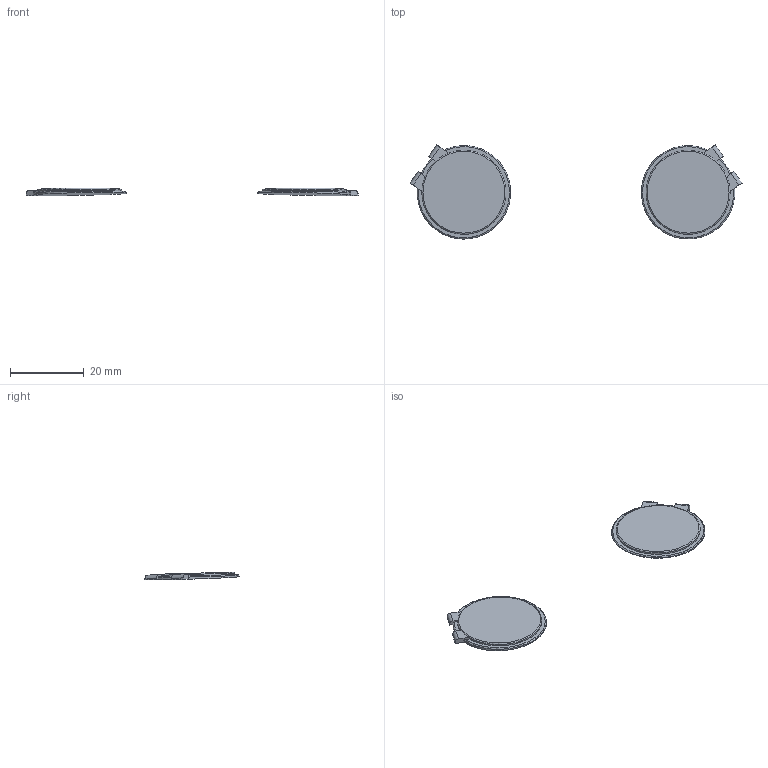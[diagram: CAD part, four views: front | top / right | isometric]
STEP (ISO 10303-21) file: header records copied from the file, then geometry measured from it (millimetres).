
FILE_DESCRIPTION(/* description */ ('','CAx-IF Rec.Pracs.---Representation and Presentation of Product Manufacturing Information (PMI)---4.0---2014-10-13'),/* implementation_level */ '2;1');
FILE_NAME(/* name */ '20thhuckinshatch3and4.step',/* time_stamp */ '2025-03-21T20:58:25+11:00',/* author */ (''),/* organization */ (''),/* preprocessor_version */ 'ST-DEVELOPER v20',/* originating_system */ 'Autodesk Translation Framework v13.20.0.188',/* authorisation */ '');
FILE_SCHEMA (('AP242_MANAGED_MODEL_BASED_3D_ENGINEERING_MIM_LF { 1 0 10303 442 1 1 4 }'));
Length unit declared in the file: millimetre
Products named in the file (1): HuckinsDeckParts
Bounding box: 90.26 x 25.6 x 2.12 mm (x, y, z)
Volume: 1222.8 mm3; surface area: 2252.5 mm2
Topology: 2 solids, 2 shells, 42 faces, 114 edges, 76 vertices
Faces by surface type: plane 22, cylinder 14, torus 6
Entity records: 1520 total; most frequent: CARTESIAN_POINT 403, ORIENTED_EDGE 228, DIRECTION 226, EDGE_CURVE 114, AXIS2_PLACEMENT_3D 89, VERTEX_POINT 76, LINE 48, VECTOR 48
